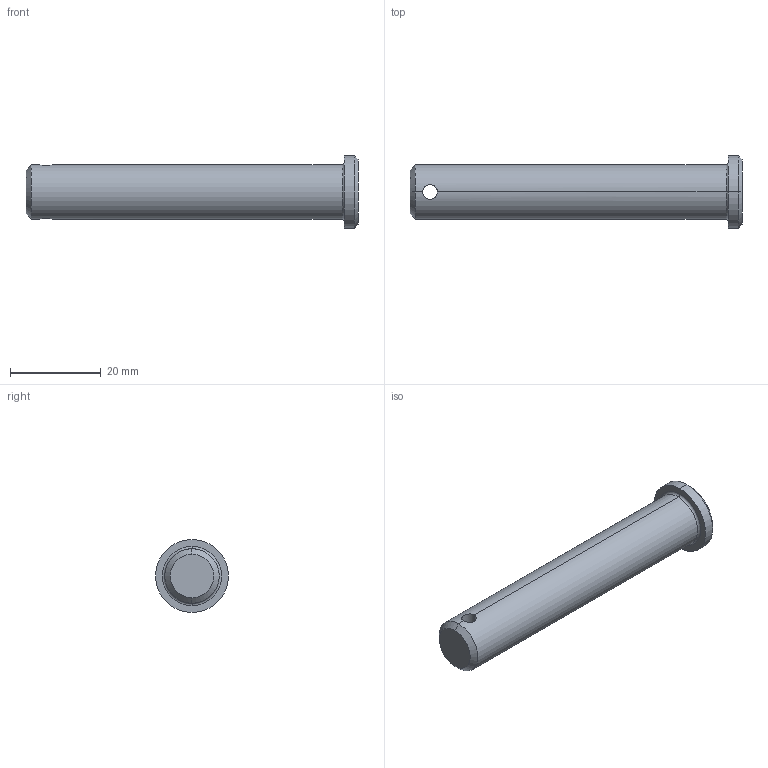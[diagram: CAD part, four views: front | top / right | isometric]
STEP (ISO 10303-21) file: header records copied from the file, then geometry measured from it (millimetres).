
FILE_DESCRIPTION (( 'STEP AP203' ), '1' );
FILE_NAME ('Wiberger-sms2360_12x70.step', '2012-10-09T08:57:45', ( 'Magnus' ), ( 'Wiberger' ), 'SwSTEP 2.0', 'SolidWorks 2011', '' );
FILE_SCHEMA (( 'CONFIG_CONTROL_DESIGN' ));
Length unit declared in the file: millimetre
Products named in the file (1): Wiberger-sms2360_12x70
Bounding box: 73 x 16 x 16 mm (x, y, z)
Volume: 8385.5 mm3; surface area: 3233.3 mm2
Topology: 1 solids, 1 shells, 15 faces, 32 edges, 18 vertices
Faces by surface type: cylinder 6, cone 4, plane 3, torus 2
Entity records: 579 total; most frequent: CARTESIAN_POINT 170, DIRECTION 76, ORIENTED_EDGE 64, AXIS2_PLACEMENT_3D 32, EDGE_CURVE 32, VERTEX_POINT 18, CIRCLE 16, EDGE_LOOP 16
